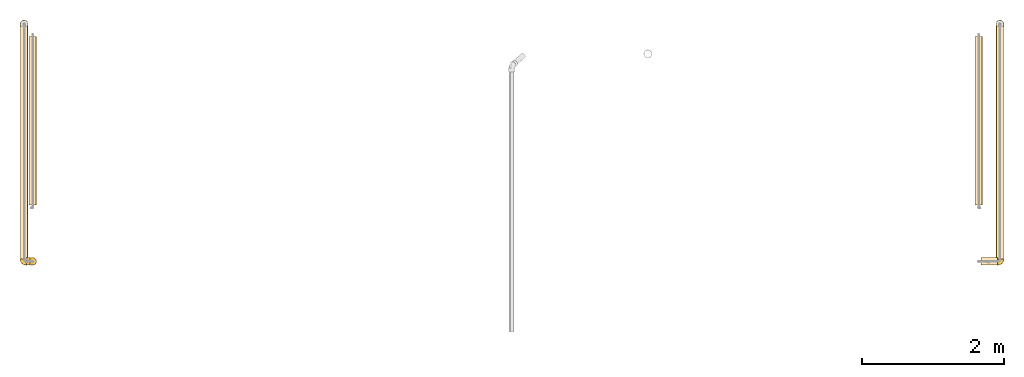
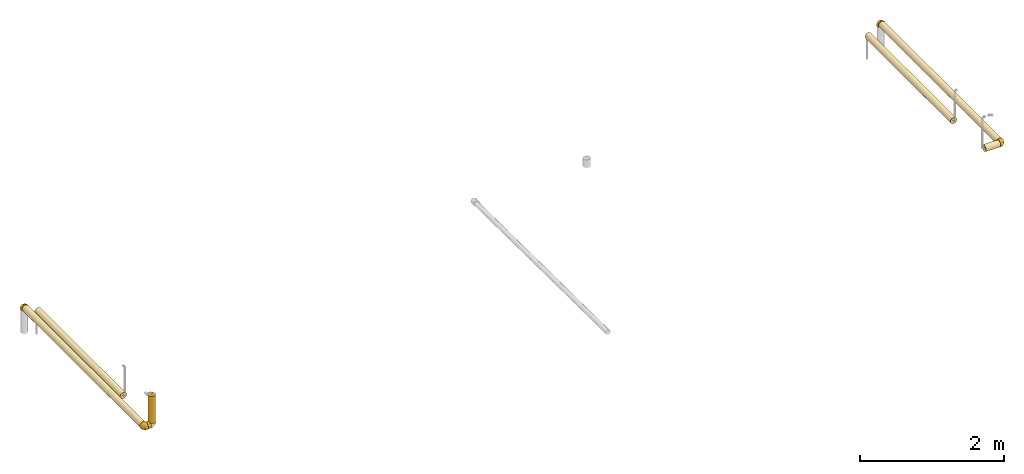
# One storey, part 1 of 17: 11 coverings.
"""IFC2X3 building model written with IfcOpenShell, lengths in millimetres."""

from ifc_helpers import new_model, entity, si_unit, converted_unit, derived_unit, direction, frame, origin_with_axes, origin_2d_with_axis, place, context, subcontext, project, spatial, hollow_circle, extrude, open_shell, surface_model, source, transform, mapped, element, save


model = new_model("IFC2X3")

# Units and contexts
model_context = context("Model", 3, precision=0.01, world=frame((0.0, 4.29681676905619e-09, 0.0)), true_north=direction((4.01073788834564e-13, 1.0)))
plan_context = context("Plan", 3, precision=0.01, world=frame((0.0, 4.29681676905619e-09, 0.0)), true_north=direction((4.01073788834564e-13, 1.0)))
body_context = subcontext(model_context, "Body", "Model", "MODEL_VIEW")
ifc_project = project(units=[converted_unit("PLANEANGLEUNIT", "DEGREE", entity("IfcPositiveLengthMeasure", 0.0174532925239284), si_unit("PLANEANGLEUNIT", "RADIAN"), dimensions=[0, 0, 0, 0, 0, 0, 0]), si_unit("AREAUNIT", "SQUARE_METRE"), si_unit("LENGTHUNIT", "METRE", prefix="MILLI"), si_unit("MASSUNIT", "GRAM", prefix="KILO"), si_unit("POWERUNIT", "WATT"), si_unit("PRESSUREUNIT", "PASCAL", prefix="KILO"), si_unit("FORCEUNIT", "NEWTON", prefix="KILO"), si_unit("ELECTRICVOLTAGEUNIT", "VOLT"), si_unit("ELECTRICCURRENTUNIT", "AMPERE"), si_unit("THERMODYNAMICTEMPERATUREUNIT", "DEGREE_CELSIUS"), si_unit("TIMEUNIT", "SECOND"), si_unit("VOLUMEUNIT", "CUBIC_METRE"), derived_unit("LINEARVELOCITYUNIT", [(si_unit("LENGTHUNIT", "METRE"), 1), (si_unit("TIMEUNIT", "SECOND"), -1)]), derived_unit("VOLUMETRICFLOWRATEUNIT", [(si_unit("VOLUMEUNIT", "CUBIC_METRE"), 1), (si_unit("TIMEUNIT", "SECOND"), -1)]), derived_unit("THERMALTRANSMITTANCEUNIT", [(si_unit("POWERUNIT", "WATT"), 1), (si_unit("THERMODYNAMICTEMPERATUREUNIT", "KELVIN"), -1), (si_unit("AREAUNIT", "SQUARE_METRE"), -1)]), derived_unit("SOUNDPRESSUREUNIT", [(si_unit("PRESSUREUNIT", "PASCAL"), 1)])], contexts=[model_context, plan_context])

# Site, building, storey
site_placement = place(None, frame((0.0, -4.29681676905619e-09, 0.0), z_axis=(0.0, 0.0, 1.0), x_axis=(1.0, 0.0, 0.0)))
site = spatial("IfcSite", under=ifc_project, at=site_placement, Name="ENGM", CompositionType="ELEMENT")
building_placement = place(site_placement, frame((0.0, 4.29681676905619e-09, 0.0), z_axis=(0.0, 0.0, 1.0), x_axis=(1.0, 0.0, 0.0)))
building = spatial("IfcBuilding", under=site, at=building_placement, Name="TI", CompositionType="ELEMENT")
storey_placement = place(building_placement, frame((0.0, 0.0, 207370.0), z_axis=(0.0, 0.0, 1.0), x_axis=(1.0, 0.0, 0.0)))
storey = spatial("IfcBuildingStorey", under=building, at=storey_placement, Name="Nivå E", CompositionType="ELEMENT", Elevation=207370.0)

# Coverings
shared_shape_1 = source(origin_with_axes(), body_context, "Body", "SweptSolid", [
    extrude(hollow_circle(Radius=52.5, WallThickness=40.0, at=origin_2d_with_axis()), frame((0.0, 0.0, 0.0), z_axis=(1.0, 0.0, 0.0), x_axis=(0.0, 1.0, 0.0)), (0.0, 0.0, 1.0), 232.4),
])
covering_1_placement = place(storey_placement, frame((598936.16633, 570723.24678, 2946.92527000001), z_axis=(0.0, 0.0, 1.0), x_axis=(-1.0, 0.0, 0.0)))
element("IfcCovering", 1, at=covering_1_placement, inside=storey, Name="BI11T - Rørskål m/Al.folie - varme 60-25", PredefinedType="INSULATION", context=body_context, shape_type="MappedRepresentation", body=[
    mapped(shared_shape_1, transform((0.0, 0.0, 0.0), scale=1.0)),
])
shared_shape_2 = source(origin_with_axes(), body_context, "Body", "SweptSolid", [
    extrude(hollow_circle(Radius=52.5, WallThickness=40.0, at=origin_2d_with_axis()), frame((0.0, 0.0, 0.0), z_axis=(1.0, 0.0, 0.0), x_axis=(0.0, 1.0, 0.0)), (0.0, 0.0, 1.0), 3263.5),
])
for number, where, z_axis, x_axis in (
    (2, (598969.96633, 574020.53084, 2946.86820999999), (-6.46234853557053e-27, 1.7999999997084e-05, 0.999999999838), (1.99999999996e-06, -0.999999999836, 1.7999999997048e-05)),
    (3, (585269.96633, 574020.53084, 2946.86820999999), (-6.46234853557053e-27, 1.7999999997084e-05, 0.999999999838), (1.99999999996e-06, -0.999999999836, 1.7999999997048e-05)),
):
    element("IfcCovering", number, at=place(storey_placement, frame(where, z_axis=z_axis, x_axis=x_axis)), inside=storey, Name="BI11T - Rørskål m/Al.folie - varme 60-25", PredefinedType="INSULATION", context=body_context, shape_type="MappedRepresentation", body=[
        mapped(shared_shape_2, transform((0.0, 0.0, 0.0), scale=1.0)),
    ])
shared_shape_3 = source(origin_with_axes(), body_context, "Body", "SweptSolid", [
    extrude(hollow_circle(Radius=52.5, WallThickness=40.0, at=origin_2d_with_axis()), frame((0.0, 0.0, 0.0), z_axis=(1.0, 0.0, 0.0), x_axis=(0.0, 1.0, 0.0)), (0.0, 0.0, 1.0), 2370.4),
])
for number, where, z_axis, x_axis in (
    (4, (598669.97776, 573881.17054, 2946.87062), (-6.46234853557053e-27, 1.7999999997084e-05, 0.999999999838), (1.99999999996e-06, -0.999999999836, 1.7999999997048e-05)),
    (5, (585389.97776, 573881.17054, 2946.87062), (-6.46234853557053e-27, 1.7999999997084e-05, 0.999999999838), (1.99999999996e-06, -0.999999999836, 1.7999999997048e-05)),
):
    element("IfcCovering", number, at=place(storey_placement, frame(where, z_axis=z_axis, x_axis=x_axis)), inside=storey, Name="BI11T - Rørskål m/Al.folie - varme 60-25", PredefinedType="INSULATION", context=body_context, shape_type="MappedRepresentation", body=[
        mapped(shared_shape_3, transform((0.0, 0.0, 0.0), scale=1.0)),
    ])
shared_shape_4 = source(origin_with_axes(), body_context, "Body", "SweptSolid", [
    extrude(hollow_circle(Radius=52.5, WallThickness=40.0, at=origin_2d_with_axis()), frame((0.0, 0.0, 0.0), z_axis=(1.0, 0.0, 0.0), x_axis=(0.0, 1.0, 0.0)), (0.0, 0.0, 1.0), 466.9),
])
covering_2_placement = place(storey_placement, frame((585389.97776, 570723.24678, 2980.72527), z_axis=(1.0, 0.0, 0.0), x_axis=(0.0, 0.0, 1.0)))
element("IfcCovering", 6, at=covering_2_placement, inside=storey, Name="BI11T - Rørskål m/Al.folie - varme 60-25", PredefinedType="INSULATION", context=body_context, shape_type="MappedRepresentation", body=[
    mapped(shared_shape_4, transform((0.0, 0.0, 0.0), scale=1.0)),
])
shared_shape_5 = source(origin_with_axes(), body_context, "Body", "SweptSolid", [
    extrude(hollow_circle(Radius=52.5, WallThickness=40.0, at=origin_2d_with_axis()), frame((0.0, 0.0, 0.0), z_axis=(1.0, 0.0, 0.0), x_axis=(0.0, 1.0, 0.0)), (0.0, 0.0, 1.0), 52.4),
])
covering_3_placement = place(storey_placement, frame((585303.76633, 570723.24678, 2946.92527000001), z_axis=(0.0, 0.0, 1.0), x_axis=(1.0, 0.0, 0.0)))
element("IfcCovering", 7, at=covering_3_placement, inside=storey, Name="BI11T - Rørskål m/Al.folie - varme 60-25", PredefinedType="INSULATION", context=body_context, shape_type="MappedRepresentation", body=[
    mapped(shared_shape_5, transform((0.0, 0.0, 0.0), scale=1.0)),
])
shared_shape_6 = source(origin_with_axes(), body_context, "Body", "SurfaceModel", [
    surface_model("IfcShellBasedSurfaceModel", [(0.00058, 33.79942, 56.9), (24.695, 33.79899, 51.26203), (35.48484, 33.7988, 44.48008), (51.27167, 33.79853, 24.67561), (44.49428, 33.79865, 35.46718), (12.66581, 33.7992, 55.47253), (55.47734, 33.79846, 12.64674), (55.47312, 33.79846, -12.66523), (-33.34, 33.79999, -46.10873), (-23.07645, 33.79982, -52.01019), (-11.79581, 33.79962, -55.66377), (12.64733, 33.7992, -55.47675), (24.67619, 33.79899, -51.27108), (0.00058, 33.79942, -56.9), (56.90058, 33.79843, 0.0), (-33.79942, 33.34059, 46.10873), (-33.79942, 33.34059, -46.10873), (-33.79942, 23.06476, -52.01564), (-33.79942, 23.06476, 52.01564), (-33.79942, 11.78813, 55.66552), (-33.79942, -28.45, 49.27684), (-33.79942, 0.0, 56.9), (-33.79942, -14.7268, -54.96118), (-33.79942, -28.45, -49.27684), (-33.79942, -40.23438, -40.23438), (-33.79942, -49.27684, -28.45), (-33.79942, -54.96118, -14.7268), (-33.79942, -40.23438, 40.23438), (-33.79942, -56.9, 0.0), (-33.79942, -54.96118, 14.7268), (-33.79942, -49.27684, 28.45), (-33.79942, 0.0, -56.9), (-33.47456, 33.47514, 46.10873), (-33.47456, 33.47514, -46.10873), (-33.34, 33.79999, 46.10873), (-32.08306, 25.44579, -50.9801), (-33.67606, 33.39168, -46.10873), (-30.83254, 26.67841, -50.56853), (-15.87298, 20.68792, -55.70711), (-10.71377, 10.71395, -56.9), (-22.59783, 20.69402, -54.43712), (-25.3495, 2.26412, -56.9), (-28.51377, 18.40378, -54.135), (-23.15278, 12.21942, -56.06085), (-33.43283, 33.57589, -46.10873), (-33.3911, 33.67664, -46.10873), (-18.41171, 28.52162, -54.13163), (-33.79942, 11.78813, -55.66552), (-25.86257, 27.59406, -51.71787), (-10.59369, 29.15804, -55.99019), (-2.26368, 25.34954, -56.9), (-33.57531, 33.43341, -46.10873), (-9.88669, 23.89466, -56.34654), (-4.52795, 16.89966, -56.9), (-26.53884, 21.15799, -53.5551), (-29.0268, 27.72268, -50.57495), (-16.89958, 4.52824, -56.9), (-1.895, 26.7254, -56.9), (-21.08111, -9.83473, -55.69449), (-12.19405, -6.31899, -55.67005), (1.29961, -23.83551, -45.86007), (-3.44158, -39.07119, -34.63852), (-16.08626, -32.30655, -45.14181), (-12.53198, -17.54434, -52.56875), (-24.14902, -20.93039, -52.56875), (19.5122, -39.57821, 0.0), (-5.77187, -52.46092, 0.0), (2.43825, -47.93751, -12.04626), (27.50761, -27.50808, -20.95212), (9.13954, -40.31355, -23.42635), (12.6399, -31.02495, -33.56913), (29.0818, 21.5584, -48.18545), (17.10634, 20.64005, -53.71172), (-15.67769, -54.07827, -10.47607), (-20.00362, -43.92699, -34.63852), (-11.3889, -49.6106, -21.77469), (25.84511, -21.54042, -31.23005), (42.40332, -10.08788, -17.51404), (18.75429, -18.33495, -40.2421), (10.44232, -13.4967, -47.73754), (21.60437, -5.47004, -45.54278), (9.23106, 7.63468, -54.43655), (24.82757, 7.97789, -48.18545), (37.87104, 15.27189, -40.2421), (35.46777, 33.7988, -44.4937), (44.48067, 33.79865, -35.48425), (-0.20974, 3.79902, -55.7794), (50.92036, 11.89772, -18.79808), (51.26261, 33.79853, -24.69442), (30.72129, -7.81829, -37.28836), (41.22028, 0.75765, -30.27981), (46.66411, 18.13564, -30.27981), (18.39173, -38.38077, -13.50992), (32.12062, -27.27302, -9.72349), (52.46102, 5.77097, 0.0), (39.57787, -19.51288, 0.0), (-26.72537, 1.89546, -56.9), (1.28536, -6.94951, -53.2796), (24.84408, 7.97053, 48.17409), (29.09957, 21.55504, 48.17409), (17.12442, 20.63486, 53.70514), (-16.07933, -54.20588, 10.23375), (-2.14511, -46.55898, 21.77469), (1.72395, -48.57904, 10.55817), (14.17345, -39.7803, 17.81965), (-19.63088, -51.39867, 21.77469), (31.54782, -1.01302, 40.22682), (30.88336, -13.90265, 32.6926), (41.23072, 0.75316, 30.26172), (18.76525, -18.34583, 40.22666), (20.72445, -26.00119, 31.88637), (50.92693, 11.89689, 18.77928), (-16.62171, -7.67117, 55.8092), (-16.89958, 4.52824, 56.9), (-25.3495, 2.26412, 56.9), (-13.80139, -42.5668, 34.63852), (-21.83916, -33.58534, 45.14181), (-19.37918, -19.87125, 52.56875), (7.60932, -34.46416, 33.43326), (-7.48072, -29.37561, 45.14181), (26.0067, -33.17149, 10.14453), (27.51056, -27.51104, 20.94157), (-25.39748, -9.93507, 55.87821), (46.67524, 18.13334, 30.26172), (-33.79942, -14.7268, 54.96118), (-1.11999, 1.70749, 55.61968), (-4.52795, 16.89966, 56.9), (-10.71377, 10.71395, 56.9), (42.40865, -10.09269, 17.49231), (37.88599, 15.26803, 40.22666), (9.23529, 7.6183, 54.43286), (-1.895, 26.7254, 56.9), (6.61312, -17.87256, 47.18511), (-9.78458, -15.45306, 52.88467), (14.61946, -5.82849, 49.09164), (-9.48707, -2.99236, 55.96007), (7.94806, -26.49629, 40.91869), (-1.31053, -9.39274, 53.17561), (-29.15705, 10.59394, 55.99026), (-23.89127, 9.87932, 56.34772), (-24.61716, 17.6509, 54.82583), (-29.75226, 25.81054, 51.18973), (-28.51377, 18.40378, 54.135), (-15.87298, 20.68792, 55.70711), (-25.86257, 27.59406, 51.71787), (-22.59783, 20.69402, 54.43712), (-26.85024, 30.69641, 50.51467), (-33.3911, 33.67664, 46.10873), (-33.43283, 33.57589, 46.10873), (-11.77441, 33.79962, 55.6683), (-23.05646, 33.79982, 52.01906), (-25.55665, 31.93352, 50.94174), (-18.39468, 28.50714, 54.13837), (-2.26368, 25.34954, 56.9), (-33.67606, 33.39168, 46.10873), (-28.34609, 27.59536, 50.84629), (-33.57531, 33.43341, 46.10873)], [open_shell([[[0, 1, 2]], [[0, 2, 3]], [[3, 2, 4]], [[0, 5, 1]], [[6, 7, 8]], [[9, 8, 10]], [[11, 8, 12]], [[13, 10, 8]], [[13, 8, 11]], [[7, 6, 14]], [[15, 16, 17]], [[18, 15, 19]], [[19, 20, 21]], [[22, 23, 24]], [[24, 25, 26]], [[22, 24, 20]], [[20, 24, 26]], [[27, 20, 28]], [[27, 29, 30]], [[29, 27, 28]], [[20, 26, 28]], [[22, 20, 31]], [[16, 15, 32]], [[33, 16, 32]], [[34, 8, 32]], [[33, 32, 8]], [[35, 36, 37]], [[38, 39, 40]], [[41, 42, 43]], [[44, 45, 46]], [[42, 47, 35]], [[16, 36, 35]], [[47, 17, 35]], [[48, 33, 44]], [[10, 49, 9]], [[44, 46, 48]], [[38, 40, 48]], [[9, 45, 8]], [[49, 13, 50]], [[36, 51, 37]], [[38, 52, 53]], [[9, 46, 45]], [[52, 49, 50]], [[43, 42, 54]], [[53, 52, 50]], [[48, 40, 55]], [[46, 52, 38]], [[46, 38, 48]], [[39, 56, 40]], [[38, 53, 39]], [[16, 35, 17]], [[37, 54, 42]], [[54, 55, 40]], [[35, 37, 42]], [[33, 55, 51]], [[55, 37, 51]], [[43, 40, 56]], [[55, 54, 37]], [[48, 55, 33]], [[40, 43, 54]], [[41, 31, 47]], [[41, 47, 42]], [[43, 56, 41]], [[49, 52, 46]], [[9, 49, 46]], [[49, 10, 13]], [[57, 13, 11]], [[58, 56, 59]], [[60, 61, 62]], [[63, 64, 58]], [[65, 66, 67]], [[68, 69, 70]], [[71, 72, 12]], [[64, 23, 22]], [[26, 73, 28]], [[23, 62, 24]], [[74, 25, 24]], [[23, 64, 62]], [[67, 75, 69]], [[25, 74, 75]], [[68, 76, 77]], [[78, 79, 80]], [[81, 53, 72]], [[72, 82, 81]], [[83, 82, 71]], [[83, 84, 85]], [[72, 53, 57]], [[72, 11, 12]], [[39, 86, 59]], [[87, 88, 7]], [[89, 83, 90]], [[91, 83, 85]], [[77, 90, 87]], [[65, 92, 93]], [[89, 90, 76]], [[25, 75, 26]], [[85, 88, 91]], [[7, 94, 87]], [[7, 14, 94]], [[90, 91, 87]], [[68, 70, 76]], [[77, 94, 95]], [[69, 75, 61]], [[12, 84, 71]], [[73, 75, 67]], [[57, 11, 72]], [[22, 31, 96]], [[60, 62, 63]], [[74, 62, 61]], [[82, 89, 80]], [[81, 97, 86]], [[87, 91, 88]], [[83, 91, 90]], [[83, 71, 84]], [[72, 71, 82]], [[94, 77, 87]], [[93, 77, 95]], [[97, 60, 63]], [[60, 78, 70]], [[59, 63, 58]], [[81, 82, 80]], [[70, 69, 61]], [[69, 92, 67]], [[69, 68, 92]], [[73, 67, 66]], [[28, 73, 66]], [[26, 75, 73]], [[93, 92, 68]], [[65, 67, 92]], [[77, 93, 68]], [[65, 93, 95]], [[60, 70, 61]], [[81, 86, 53]], [[70, 78, 76]], [[89, 76, 78]], [[77, 76, 90]], [[80, 89, 78]], [[83, 89, 82]], [[79, 78, 60]], [[80, 79, 81]], [[60, 97, 79]], [[81, 79, 97]], [[62, 74, 24]], [[75, 74, 61]], [[58, 22, 96]], [[62, 64, 63]], [[22, 58, 64]], [[56, 58, 96]], [[39, 59, 56]], [[97, 63, 59]], [[59, 86, 97]], [[53, 86, 39]], [[98, 99, 100]], [[28, 66, 101]], [[102, 103, 104]], [[101, 102, 105]], [[106, 107, 108]], [[30, 29, 105]], [[109, 110, 107]], [[3, 111, 6]], [[112, 113, 114]], [[94, 6, 111]], [[105, 115, 30]], [[102, 101, 103]], [[27, 116, 20]], [[20, 116, 117]], [[1, 5, 100]], [[118, 119, 115]], [[120, 121, 104]], [[117, 112, 122]], [[3, 4, 123]], [[20, 117, 124]], [[125, 126, 127]], [[111, 3, 123]], [[14, 6, 94]], [[128, 111, 108]], [[107, 128, 108]], [[4, 2, 129]], [[130, 98, 100]], [[108, 123, 129]], [[2, 1, 99]], [[108, 129, 106]], [[100, 126, 130]], [[27, 30, 115]], [[118, 102, 104]], [[99, 129, 2]], [[106, 129, 98]], [[5, 0, 131]], [[126, 100, 131]], [[111, 128, 94]], [[119, 132, 133]], [[5, 131, 100]], [[109, 134, 132]], [[134, 98, 130]], [[118, 115, 102]], [[116, 115, 119]], [[127, 135, 125]], [[134, 109, 106]], [[112, 135, 113]], [[124, 122, 21]], [[136, 109, 132]], [[100, 99, 1]], [[129, 99, 98]], [[129, 123, 4]], [[111, 123, 108]], [[120, 128, 121]], [[94, 128, 95]], [[125, 134, 130]], [[135, 127, 113]], [[132, 134, 137]], [[122, 112, 114]], [[133, 112, 117]], [[21, 122, 114]], [[117, 122, 124]], [[134, 106, 98]], [[107, 106, 109]], [[109, 136, 110]], [[128, 107, 121]], [[104, 110, 118]], [[121, 107, 110]], [[133, 132, 137]], [[136, 119, 118]], [[115, 116, 27]], [[117, 116, 119]], [[119, 133, 117]], [[135, 133, 137]], [[133, 135, 112]], [[135, 137, 125]], [[134, 125, 137]], [[126, 125, 130]], [[101, 105, 29]], [[115, 105, 102]], [[28, 101, 29]], [[101, 66, 103]], [[66, 65, 103]], [[120, 104, 103]], [[120, 103, 65]], [[104, 121, 110]], [[65, 95, 120]], [[128, 120, 95]], [[119, 136, 132]], [[110, 136, 118]], [[114, 138, 21]], [[113, 139, 114]], [[140, 141, 142]], [[143, 144, 145]], [[146, 147, 148]], [[19, 138, 18]], [[149, 150, 151]], [[143, 152, 144]], [[152, 153, 149]], [[154, 15, 18]], [[153, 0, 149]], [[146, 151, 147]], [[32, 144, 148]], [[139, 138, 114]], [[139, 140, 142]], [[142, 154, 18]], [[141, 154, 142]], [[155, 156, 141]], [[145, 127, 143]], [[34, 147, 151]], [[146, 144, 152]], [[144, 146, 148]], [[152, 143, 126]], [[127, 145, 113]], [[127, 126, 143]], [[151, 146, 152]], [[149, 151, 152]], [[34, 151, 150]], [[152, 126, 153]], [[140, 113, 145]], [[138, 139, 142]], [[18, 138, 142]], [[138, 19, 21]], [[113, 140, 139]], [[155, 144, 32]], [[145, 144, 155]], [[145, 141, 140]], [[154, 141, 156]], [[156, 155, 32]], [[141, 145, 155]], [[8, 0, 3]], [[149, 0, 8]], [[150, 149, 8]], [[150, 8, 34]], [[3, 6, 8]], [[7, 85, 8]], [[85, 7, 88]], [[84, 12, 85]], [[12, 8, 85]], [[15, 17, 47]], [[15, 47, 31]], [[19, 15, 31]], [[20, 124, 21]], [[20, 19, 31]]])]),
])
for number, where, z_axis, x_axis in (
    (8, (598969.96633, 574054.33025, 2946.86762), (1.0, 0.0, 0.0), (0.0, 0.0, 1.0)),
    (9, (585269.96633, 574054.33025, 2946.86762), (1.0, 0.0, 0.0), (0.0, 0.0, 1.0)),
):
    element("IfcCovering", number, at=place(storey_placement, frame(where, z_axis=z_axis, x_axis=x_axis)), inside=storey, Name="BI11T - Rørskål m/Al.folie - varme 60-25", PredefinedType="INSULATION", context=body_context, shape_type="MappedRepresentation", body=[
        mapped(shared_shape_6, transform((0.0, 0.0, 0.0), scale=1.0)),
    ])
shared_shape_7 = source(origin_with_axes(), body_context, "Body", "SurfaceModel", [
    surface_model("IfcShellBasedSurfaceModel", [(-33.34059, 33.8, 46.10873), (-23.05704, 33.8, 52.01906), (-11.775, 33.8, 55.6683), (44.48008, 33.8, -35.48425), (55.47253, 33.8, -12.66523), (51.26203, 33.8, -24.69442), (-23.07704, 33.8, -52.01019), (-33.34059, 33.8, -46.10873), (-11.7964, 33.8, -55.66377), (12.64674, 33.8, -55.47675), (24.67561, 33.8, -51.27108), (0.0, 33.8, -56.9), (-33.8, 0.0, -56.9), (-33.8, -14.7268, -54.96118), (-33.8, -14.7268, 54.96118), (-33.8, -28.45, -49.27684), (-33.8, -40.23438, -40.23438), (-33.8, -49.27684, -28.45), (-33.8, -54.96118, -14.7268), (-33.8, -40.23438, 40.23438), (-33.8, -54.96118, 14.7268), (-33.8, -49.27684, 28.45), (-33.8, 33.34059, -46.10873), (-33.8, 33.34059, 46.10873), (-33.47515, 33.47515, 46.10873), (-33.47515, 33.47515, -46.10873), (-32.08364, 25.44579, -50.9801), (-33.67665, 33.39168, -46.10873), (-30.83312, 26.67841, -50.56853), (-25.35, 2.26417, -56.9), (-28.51435, 18.40378, -54.135), (-23.15334, 12.21937, -56.06086), (-33.43341, 33.5759, -46.10873), (-33.39168, 33.67665, -46.10873), (-18.4122, 28.52188, -54.13163), (-33.8, 11.78813, -55.66552), (-33.8, 23.06476, -52.01564), (-25.86292, 27.59402, -51.71796), (-10.594, 29.15837, -55.99022), (-2.26417, 25.35, -56.9), (-33.5759, 33.43341, -46.10873), (-15.87334, 20.68765, -55.70718), (-9.88716, 23.89498, -56.34654), (-4.52834, 16.9, -56.9), (-26.53944, 21.15799, -53.5551), (-10.71417, 10.71417, -56.9), (-29.02753, 27.72284, -50.57484), (-16.9, 4.52834, -56.9), (-1.89548, 26.72596, -56.9), (-21.08164, -9.83471, -55.69449), (-12.19459, -6.31894, -55.67005), (1.29929, -23.83547, -45.86), (-3.44185, -39.07106, -34.63852), (-16.08681, -32.30654, -45.14181), (-12.53249, -17.54431, -52.56875), (-24.14956, -20.93038, -52.56875), (19.51212, -39.57784, 0.0), (-5.77216, -52.46082, 0.0), (2.43768, -47.9375, -12.04628), (27.50756, -27.50756, -20.95211), (9.13936, -40.31341, -23.42618), (12.63976, -31.02468, -33.56907), (29.0814, 21.55934, -48.18545), (17.10597, 20.64085, -53.71172), (-15.67837, -54.0783, -10.47602), (-33.8, -56.9, 0.0), (-20.00402, -43.92696, -34.63852), (-11.38936, -49.61057, -21.77469), (25.8449, -21.54003, -31.23005), (42.40332, -10.087, -17.51383), (18.75415, -18.3345, -40.2421), (10.4419, -13.49624, -47.73768), (21.60417, -5.46943, -45.54281), (9.23089, 7.63542, -54.43656), (24.82732, 7.97866, -48.18545), (37.87075, 15.27302, -40.2421), (35.46718, 33.8, -44.4937), (50.92012, 11.89905, -18.79808), (30.72116, -7.8177, -37.28829), (41.22013, 0.75864, -30.27981), (46.66377, 18.13685, -30.27981), (52.46082, 5.77216, 0.0), (56.9, 33.8, 0.0), (39.57784, -19.51212, 0.0), (32.12068, -27.27232, -9.7235), (1.285, -6.94906, -53.27967), (24.84384, 7.9713, 48.17409), (29.09917, 21.55599, 48.17409), (17.12404, 20.63566, 53.70514), (-16.07985, -54.20588, 10.23371), (-2.14575, -46.559, 21.77469), (1.72334, -48.57904, 10.55822), (14.17314, -39.78008, 17.81974), (-19.63149, -51.39867, 21.77469), (31.54782, -1.01192, 40.22682), (30.88333, -13.90178, 32.6927), (41.23057, 0.75415, 30.26172), (18.76512, -18.34538, 40.22666), (20.72445, -26.00089, 31.88611), (51.27108, 33.8, 24.67561), (50.9267, 11.89822, 18.77928), (55.47675, 33.8, 12.64674), (-16.6221, -7.67112, 55.80919), (-16.9, 4.52834, 56.9), (-25.35, 2.26417, 56.9), (-13.80199, -42.5668, 34.63852), (-21.83958, -33.58531, 45.14181), (-33.8, -28.45, 49.27684), (-19.37969, -19.87123, 52.56875), (24.69442, 33.8, 51.26203), (12.66523, 33.8, 55.47253), (7.60894, -34.46398, 33.43332), (-7.48103, -29.3755, 45.14181), (26.00634, -33.17128, 10.14462), (27.51051, -27.51051, 20.94155), (-25.39793, -9.93514, 55.87819), (44.4937, 33.8, 35.46718), (46.67489, 18.13455, 30.26172), (-1.12035, 1.70754, 55.61965), (-4.52834, 16.9, 56.9), (-10.71417, 10.71417, 56.9), (42.40865, -10.09182, 17.4921), (35.48425, 33.8, 44.48008), (37.8857, 15.26915, 40.22666), (9.23512, 7.61904, 54.43287), (-1.89548, 26.72596, 56.9), (6.61304, -17.87206, 47.18516), (-9.78518, -15.45307, 52.88466), (14.61926, -5.8279, 49.09168), (-9.48758, -2.99227, 55.96008), (-33.8, 0.0, 56.9), (7.94789, -26.49594, 40.91874), (-1.31124, -9.39277, 53.17563), (-29.15757, 10.59376, 55.9903), (-23.89175, 9.87937, 56.34772), (-24.61782, 17.65103, 54.82579), (-29.75291, 25.81063, 51.18968), (-28.51435, 18.40378, 54.135), (-15.87334, 20.68765, 55.70718), (-25.86292, 27.59402, 51.71796), (-22.5985, 20.69411, 54.43708), (-26.85079, 30.69652, 50.51467), (-33.39168, 33.67665, 46.10873), (-33.43341, 33.5759, 46.10873), (-33.8, 11.78813, 55.66552), (-33.8, 23.06476, 52.01564), (-18.39517, 28.5074, 54.13837), (-2.26417, 25.35, 56.9), (-33.67665, 33.39168, 46.10873), (-28.3466, 27.59544, 50.84629), (-33.5759, 33.43341, 46.10873), (-26.72595, 1.89548, -56.9), (-0.20989, 3.79952, -55.7794), (18.39178, -38.38047, -13.50944), (-25.55722, 31.93363, 50.94173), (-22.59849, 20.69411, -54.43708), (0.0, 33.79999, 56.9)], [open_shell([[[0, 1, 2]], [[3, 4, 5]], [[6, 7, 8]], [[9, 7, 10]], [[11, 8, 7]], [[11, 7, 9]], [[12, 13, 14]], [[13, 15, 16]], [[16, 17, 18]], [[19, 20, 21]], [[22, 23, 24]], [[25, 22, 24]], [[0, 7, 24]], [[25, 24, 7]], [[26, 27, 28]], [[29, 30, 31]], [[32, 33, 34]], [[22, 27, 26]], [[35, 36, 26]], [[37, 25, 32]], [[8, 38, 6]], [[32, 34, 37]], [[6, 33, 7]], [[38, 11, 39]], [[27, 40, 28]], [[41, 42, 43]], [[6, 34, 33]], [[42, 38, 39]], [[31, 30, 44]], [[43, 42, 39]], [[34, 42, 41]], [[34, 41, 37]], [[41, 43, 45]], [[22, 26, 36]], [[28, 44, 30]], [[26, 28, 30]], [[25, 46, 40]], [[46, 28, 40]], [[46, 44, 28]], [[37, 46, 25]], [[29, 12, 35]], [[29, 35, 30]], [[31, 47, 29]], [[38, 42, 34]], [[6, 38, 34]], [[38, 8, 11]], [[48, 11, 9]], [[49, 47, 50]], [[51, 52, 53]], [[54, 55, 49]], [[56, 57, 58]], [[59, 60, 61]], [[62, 63, 10]], [[55, 15, 13]], [[18, 64, 65]], [[15, 53, 16]], [[66, 17, 16]], [[15, 55, 53]], [[58, 67, 60]], [[17, 66, 67]], [[59, 68, 69]], [[70, 71, 72]], [[73, 43, 63]], [[63, 74, 73]], [[75, 74, 62]], [[75, 76, 3]], [[63, 43, 48]], [[63, 9, 10]], [[77, 5, 4]], [[78, 75, 79]], [[80, 75, 3]], [[69, 79, 77]], [[78, 79, 68]], [[17, 67, 18]], [[3, 5, 80]], [[4, 81, 77]], [[4, 82, 81]], [[79, 80, 77]], [[59, 61, 68]], [[69, 81, 83]], [[60, 67, 52]], [[10, 76, 62]], [[64, 67, 58]], [[48, 9, 63]], [[51, 53, 54]], [[66, 53, 52]], [[74, 78, 72]], [[77, 80, 5]], [[75, 80, 79]], [[75, 62, 76]], [[63, 62, 74]], [[81, 69, 77]], [[84, 69, 83]], [[85, 51, 54]], [[51, 70, 61]], [[50, 54, 49]], [[73, 74, 72]], [[61, 60, 52]], [[64, 58, 57]], [[65, 64, 57]], [[18, 67, 64]], [[69, 84, 59]], [[56, 84, 83]], [[51, 61, 52]], [[61, 70, 68]], [[78, 68, 70]], [[69, 68, 79]], [[72, 78, 70]], [[75, 78, 74]], [[71, 70, 51]], [[72, 71, 73]], [[51, 85, 71]], [[73, 71, 85]], [[53, 66, 16]], [[67, 66, 52]], [[53, 55, 54]], [[13, 49, 55]], [[45, 50, 47]], [[85, 54, 50]], [[86, 87, 88]], [[65, 57, 89]], [[90, 91, 92]], [[89, 90, 93]], [[94, 95, 96]], [[21, 20, 93]], [[97, 98, 95]], [[99, 100, 101]], [[102, 103, 104]], [[81, 101, 100]], [[93, 105, 21]], [[90, 89, 91]], [[19, 106, 107]], [[107, 106, 108]], [[109, 110, 88]], [[111, 112, 105]], [[113, 114, 92]], [[108, 102, 115]], [[99, 116, 117]], [[107, 108, 14]], [[118, 119, 120]], [[100, 99, 117]], [[82, 101, 81]], [[121, 100, 96]], [[95, 121, 96]], [[116, 122, 123]], [[124, 86, 88]], [[96, 117, 123]], [[122, 109, 87]], [[96, 123, 94]], [[88, 119, 124]], [[19, 21, 105]], [[111, 90, 92]], [[87, 123, 122]], [[94, 123, 86]], [[119, 88, 125]], [[100, 121, 81]], [[112, 126, 127]], [[110, 125, 88]], [[97, 128, 126]], [[128, 86, 124]], [[111, 105, 90]], [[106, 105, 112]], [[120, 129, 118]], [[128, 97, 94]], [[102, 129, 103]], [[14, 115, 130]], [[131, 97, 126]], [[88, 87, 109]], [[123, 87, 86]], [[123, 117, 116]], [[100, 117, 96]], [[113, 121, 114]], [[81, 121, 83]], [[118, 128, 124]], [[129, 120, 103]], [[126, 128, 132]], [[115, 102, 104]], [[127, 102, 108]], [[130, 115, 104]], [[108, 115, 14]], [[128, 94, 86]], [[95, 94, 97]], [[97, 131, 98]], [[121, 95, 114]], [[92, 98, 111]], [[114, 95, 98]], [[127, 126, 132]], [[131, 112, 111]], [[105, 106, 19]], [[108, 106, 112]], [[112, 127, 108]], [[129, 127, 132]], [[127, 129, 102]], [[129, 132, 118]], [[128, 118, 132]], [[119, 118, 124]], [[89, 93, 20]], [[105, 93, 90]], [[65, 89, 20]], [[89, 57, 91]], [[57, 56, 91]], [[113, 92, 91]], [[113, 91, 56]], [[92, 114, 98]], [[56, 83, 113]], [[121, 113, 83]], [[112, 131, 126]], [[98, 131, 111]], [[104, 133, 130]], [[103, 134, 104]], [[135, 136, 137]], [[138, 139, 140]], [[141, 142, 143]], [[144, 133, 145]], [[138, 146, 139]], [[146, 147, 2]], [[148, 23, 145]], [[24, 139, 143]], [[134, 133, 104]], [[134, 135, 137]], [[137, 148, 145]], [[136, 148, 137]], [[149, 150, 136]], [[140, 120, 138]], [[141, 139, 146]], [[139, 141, 143]], [[146, 138, 119]], [[120, 140, 103]], [[120, 119, 138]], [[146, 119, 147]], [[135, 103, 140]], [[133, 134, 137]], [[145, 133, 137]], [[133, 144, 130]], [[103, 135, 134]], [[149, 139, 24]], [[140, 139, 149]], [[140, 136, 135]], [[148, 136, 150]], [[150, 149, 24]], [[136, 140, 149]], [[10, 3, 76]], [[107, 16, 18]], [[19, 107, 65]], [[20, 19, 65]], [[107, 18, 65]], [[35, 26, 30]], [[116, 99, 101]], [[10, 7, 3]], [[145, 35, 144]], [[101, 7, 116]], [[4, 3, 101]], [[101, 3, 7]], [[4, 101, 82]], [[22, 36, 35]], [[23, 22, 145]], [[16, 107, 14]], [[16, 14, 13]], [[47, 49, 151]], [[43, 152, 45]], [[109, 122, 116]], [[109, 116, 110]], [[45, 152, 50]], [[56, 153, 84]], [[13, 12, 151]], [[73, 85, 152]], [[60, 153, 58]], [[56, 58, 153]], [[73, 152, 43]], [[49, 13, 151]], [[50, 152, 85]], [[2, 1, 154]], [[141, 154, 142]], [[0, 142, 154]], [[154, 141, 146]], [[2, 154, 146]], [[0, 154, 1]], [[144, 35, 12]], [[144, 14, 130]], [[12, 14, 144]], [[41, 45, 155]], [[41, 155, 37]], [[37, 155, 46]], [[45, 47, 155]], [[44, 46, 155]], [[31, 155, 47]], [[155, 31, 44]], [[147, 156, 2]], [[7, 110, 116]], [[2, 156, 0]], [[0, 156, 7]], [[7, 156, 110]], [[22, 35, 145]], [[60, 59, 153]], [[84, 153, 59]], [[110, 156, 125]]])]),
])
for number, where, z_axis, x_axis in (
    (10, (598969.96633, 570723.24678, 2946.92527000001), (0.0, 1.7999999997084e-05, 0.999999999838), (1.0, 0.0, 0.0)),
    (11, (585269.96633, 570723.24678, 2946.92527000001), (-6.46234853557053e-27, 1.7999999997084e-05, 0.999999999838), (1.99999999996e-06, -0.999999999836, 1.7999999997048e-05)),
):
    element("IfcCovering", number, at=place(storey_placement, frame(where, z_axis=z_axis, x_axis=x_axis)), inside=storey, Name="BI11T - Rørskål m/Al.folie - varme 60-25", PredefinedType="INSULATION", context=body_context, shape_type="MappedRepresentation", body=[
        mapped(shared_shape_7, transform((0.0, 0.0, 0.0), scale=1.0)),
    ])

save(model, "model.ifc")
